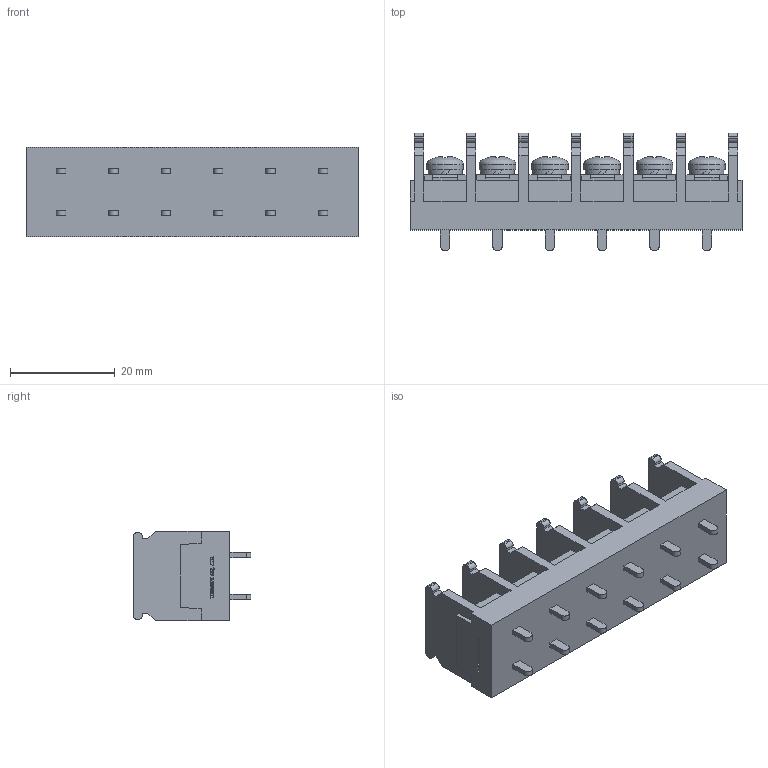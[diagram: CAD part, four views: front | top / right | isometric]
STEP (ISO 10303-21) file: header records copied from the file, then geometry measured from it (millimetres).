
FILE_DESCRIPTION(/* description */ ('Alibre Inc.'),/* implementation_level */ '2;1');
FILE_NAME(/* name */ 'export0',/* time_stamp */ '2015-10-17T15:32:57+09:00',/* author */ (''),/* organization */ (''),/* preprocessor_version */ 'ST-DEVELOPER v14',/* originating_system */ 'Alibre',/* authorisation */ '');
FILE_SCHEMA (('CONFIG_CONTROL_DESIGN'));
Length unit declared in the file: centimetre
Products named in the file (1): ID_1
Bounding box: 63.4 x 22.5 x 17 mm (x, y, z)
Volume: 12188.3 mm3; surface area: 7353.1 mm2
Topology: 1 solids, 17 shells, 840 faces, 2268 edges, 1506 vertices
Faces by surface type: plane 624, bspline 104, cylinder 70, cone 24, torus 12, sphere 6
Full cylindrical faces by diameter (mm): 4 x6, 6.5 x6, 7 x6
Entity records: 25478 total; most frequent: CARTESIAN_POINT 5663, ORIENTED_EDGE 4452, DIRECTION 3118, EDGE_CURVE 2226, VECTOR 1652, LINE 1652, VERTEX_POINT 1488, AXIS2_PLACEMENT_3D 1035
